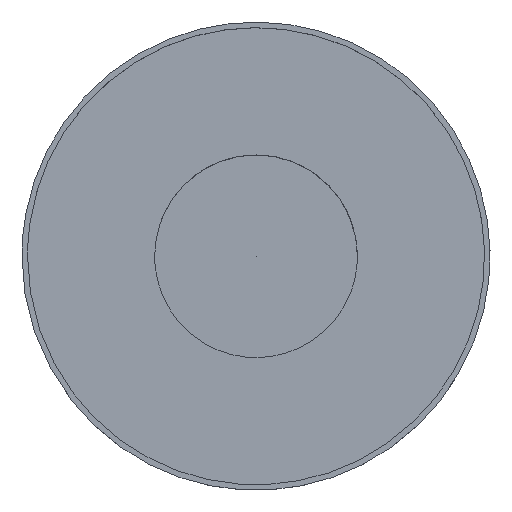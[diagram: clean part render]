
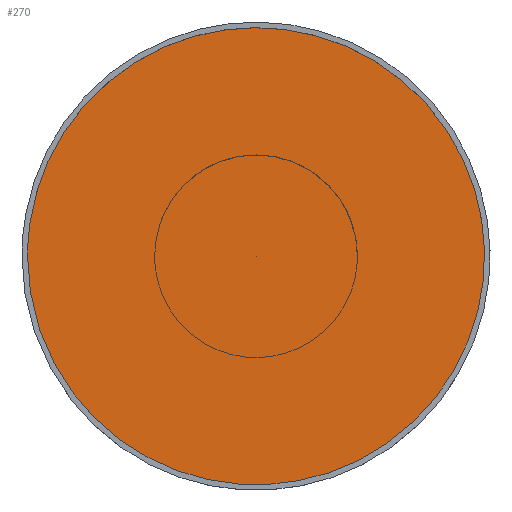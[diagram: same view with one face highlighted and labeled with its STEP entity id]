
A CAD part, top view. The second image highlights one B-rep face of the part: STEP entity #270.
In plain terms, the highlighted free-form (B-spline) face has degree [2, 1] with [9, 2] control points.
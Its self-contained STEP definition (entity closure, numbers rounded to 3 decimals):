
#97=B_SPLINE_CURVE_WITH_KNOTS('',1,(#18650,#18651),.UNSPECIFIED.,.F.,.F.,
(2,2),(82.621,144.621),.UNSPECIFIED.);
#141=(
BOUNDED_SURFACE()
B_SPLINE_SURFACE(2,1,((#18567,#18568),(#18569,#18570),(#18571,#18572),(#18573,
#18574),(#18575,#18576),(#18577,#18578),(#18579,#18580),(#18581,#18582),
(#18583,#18584)),.UNSPECIFIED.,.T.,.F.,.F.)
B_SPLINE_SURFACE_WITH_KNOTS((3,2,2,2,3),(2,2),(0.,99.746,199.491,
299.237,398.982),(82.621,144.621),
 .UNSPECIFIED.)
GEOMETRIC_REPRESENTATION_ITEM()
RATIONAL_B_SPLINE_SURFACE(((1.,1.),(0.707,0.707),
(1.,1.),(0.707,0.707),(1.,1.),(0.707,
0.707),(1.,1.),(0.707,0.707),(1.,1.)))
REPRESENTATION_ITEM('')
SURFACE()
);
#270=ADVANCED_FACE('',(#371),#141,.T.);
#371=FACE_OUTER_BOUND('',#481,.T.);
#481=EDGE_LOOP('',(#836,#837,#838));
#836=ORIENTED_EDGE('',*,*,#1069,.T.);
#837=ORIENTED_EDGE('',*,*,#1060,.T.);
#838=ORIENTED_EDGE('',*,*,#1060,.F.);
#1060=EDGE_CURVE('',#1315,#1314,#97,.T.);
#1069=EDGE_CURVE('',#1315,#1315,#1191,.T.);
#1191=(
BOUNDED_CURVE()
B_SPLINE_CURVE(2,(#18696,#18697,#18698,#18699,#18700,#18701,#18702,#18703,
#18704),.UNSPECIFIED.,.T.,.F.)
B_SPLINE_CURVE_WITH_KNOTS((3,2,2,2,3),(0.,99.746,199.491,
299.237,398.982),.UNSPECIFIED.)
CURVE()
GEOMETRIC_REPRESENTATION_ITEM()
RATIONAL_B_SPLINE_CURVE((1.,0.707,1.,0.707,1.,0.707,
1.,0.707,1.))
REPRESENTATION_ITEM('')
);
#1314=VERTEX_POINT('',#18642);
#1315=VERTEX_POINT('',#18643);
#18567=CARTESIAN_POINT('',(-62.,0.,-8.5));
#18568=CARTESIAN_POINT('',(0.,0.,-8.5));
#18569=CARTESIAN_POINT('',(-62.,-62.,-8.5));
#18570=CARTESIAN_POINT('',(0.,0.,-8.5));
#18571=CARTESIAN_POINT('',(0.,-62.,-8.5));
#18572=CARTESIAN_POINT('',(0.,0.,-8.5));
#18573=CARTESIAN_POINT('',(62.,-62.,-8.5));
#18574=CARTESIAN_POINT('',(0.,0.,-8.5));
#18575=CARTESIAN_POINT('',(62.,0.,-8.5));
#18576=CARTESIAN_POINT('',(0.,0.,-8.5));
#18577=CARTESIAN_POINT('',(62.,62.,-8.5));
#18578=CARTESIAN_POINT('',(0.,0.,-8.5));
#18579=CARTESIAN_POINT('',(0.,62.,-8.5));
#18580=CARTESIAN_POINT('',(0.,0.,-8.5));
#18581=CARTESIAN_POINT('',(-62.,62.,-8.5));
#18582=CARTESIAN_POINT('',(0.,0.,-8.5));
#18583=CARTESIAN_POINT('',(-62.,0.,-8.5));
#18584=CARTESIAN_POINT('',(0.,0.,-8.5));
#18642=CARTESIAN_POINT('',(0.,0.,-8.5));
#18643=CARTESIAN_POINT('',(-62.,0.,-8.5));
#18650=CARTESIAN_POINT('',(-62.,0.,-8.5));
#18651=CARTESIAN_POINT('',(0.,0.,-8.5));
#18696=CARTESIAN_POINT('',(-62.,0.,-8.5));
#18697=CARTESIAN_POINT('',(-62.,-62.,-8.5));
#18698=CARTESIAN_POINT('',(0.,-62.,-8.5));
#18699=CARTESIAN_POINT('',(62.,-62.,-8.5));
#18700=CARTESIAN_POINT('',(62.,0.,-8.5));
#18701=CARTESIAN_POINT('',(62.,62.,-8.5));
#18702=CARTESIAN_POINT('',(0.,62.,-8.5));
#18703=CARTESIAN_POINT('',(-62.,62.,-8.5));
#18704=CARTESIAN_POINT('',(-62.,0.,-8.5));
